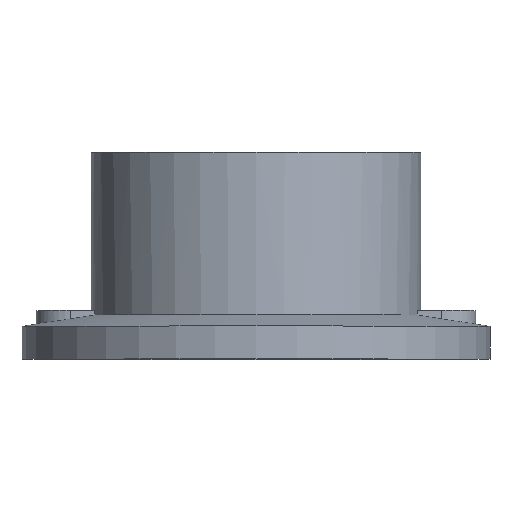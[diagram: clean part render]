
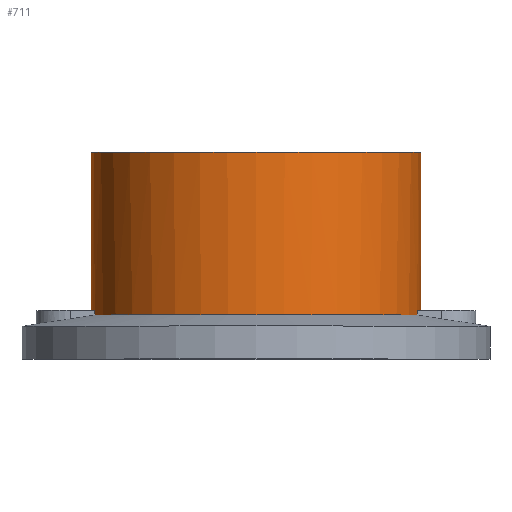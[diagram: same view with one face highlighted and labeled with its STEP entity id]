
A CAD part, top view. The second image highlights one B-rep face of the part: STEP entity #711.
In plain terms, the highlighted cylindrical face has radius 38.1 mm (diameter 76.2 mm), a partial arc.
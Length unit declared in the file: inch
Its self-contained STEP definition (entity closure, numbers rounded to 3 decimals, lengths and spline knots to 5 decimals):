
#438=CARTESIAN_POINT('',(1.46709,0.40234,0.3125));
#439=VERTEX_POINT('',#438);
#453=CARTESIAN_POINT('',(-1.46709,0.40234,0.3125));
#454=VERTEX_POINT('',#453);
#455=CARTESIAN_POINT('',(0.,0.40234,0.0));
#456=DIRECTION('',(0.0,1.0,0.0));
#457=DIRECTION('',(-1.0,0.0,0.0));
#458=AXIS2_PLACEMENT_3D('',#455,#456,#457);
#459=CIRCLE('',#458,1.5);
#460=EDGE_CURVE('',#454,#439,#459,.T.);
#646=CARTESIAN_POINT('',(0.,1.14234,0.0));
#647=DIRECTION('',(0.,1.0,0.0));
#648=DIRECTION('',(-1.0,0.0,0.0));
#649=AXIS2_PLACEMENT_3D('',#646,#647,#648);
#650=CYLINDRICAL_SURFACE('',#649,1.5);
#651=CARTESIAN_POINT('',(-1.5,0.44434,0.));
#652=VERTEX_POINT('',#651);
#653=CARTESIAN_POINT('',(-1.5,1.88234,0.0));
#654=VERTEX_POINT('',#653);
#655=CARTESIAN_POINT('',(-1.5,0.44434,0.));
#656=DIRECTION('',(0.0,1.0,0.0));
#657=VECTOR('',#656,1.438);
#658=LINE('',#655,#657);
#659=EDGE_CURVE('',#652,#654,#658,.T.);
#660=ORIENTED_EDGE('',*,*,#659,.F.);
#661=CARTESIAN_POINT('',(-1.46709,0.44434,0.3125));
#662=VERTEX_POINT('',#661);
#663=CARTESIAN_POINT('',(0.,0.44434,0.0));
#664=DIRECTION('',(0.0,1.0,0.0));
#665=DIRECTION('',(-1.0,0.0,0.0));
#666=AXIS2_PLACEMENT_3D('',#663,#664,#665);
#667=CIRCLE('',#666,1.5);
#668=EDGE_CURVE('',#652,#662,#667,.T.);
#669=ORIENTED_EDGE('',*,*,#668,.T.);
#670=CARTESIAN_POINT('',(-1.46709,0.44434,0.3125));
#671=DIRECTION('',(0.0,-1.0,0.0));
#672=VECTOR('',#671,0.042);
#673=LINE('',#670,#672);
#674=EDGE_CURVE('',#662,#454,#673,.T.);
#675=ORIENTED_EDGE('',*,*,#674,.T.);
#676=ORIENTED_EDGE('',*,*,#460,.T.);
#677=CARTESIAN_POINT('',(1.46709,0.44434,0.3125));
#678=VERTEX_POINT('',#677);
#679=CARTESIAN_POINT('',(1.46709,0.40234,0.3125));
#680=DIRECTION('',(0.0,1.0,0.0));
#681=VECTOR('',#680,0.042);
#682=LINE('',#679,#681);
#683=EDGE_CURVE('',#439,#678,#682,.T.);
#684=ORIENTED_EDGE('',*,*,#683,.T.);
#685=CARTESIAN_POINT('',(1.5,0.44434,0.));
#686=VERTEX_POINT('',#685);
#687=CARTESIAN_POINT('',(0.,0.44434,0.0));
#688=DIRECTION('',(0.0,1.0,0.0));
#689=DIRECTION('',(-1.0,0.0,0.0));
#690=AXIS2_PLACEMENT_3D('',#687,#688,#689);
#691=CIRCLE('',#690,1.5);
#692=EDGE_CURVE('',#678,#686,#691,.T.);
#693=ORIENTED_EDGE('',*,*,#692,.T.);
#694=CARTESIAN_POINT('',(1.5,1.88234,0.));
#695=VERTEX_POINT('',#694);
#696=CARTESIAN_POINT('',(1.5,1.88234,0.));
#697=DIRECTION('',(0.0,-1.0,0.0));
#698=VECTOR('',#697,1.438);
#699=LINE('',#696,#698);
#700=EDGE_CURVE('',#695,#686,#699,.T.);
#701=ORIENTED_EDGE('',*,*,#700,.F.);
#702=CARTESIAN_POINT('',(0.,1.88234,0.0));
#703=DIRECTION('',(0.0,1.0,0.0));
#704=DIRECTION('',(-1.0,0.0,0.0));
#705=AXIS2_PLACEMENT_3D('',#702,#703,#704);
#706=CIRCLE('',#705,1.5);
#707=EDGE_CURVE('',#654,#695,#706,.T.);
#708=ORIENTED_EDGE('',*,*,#707,.F.);
#709=EDGE_LOOP('',(#660,#669,#675,#676,#684,#693,#701,#708));
#710=FACE_OUTER_BOUND('',#709,.T.);
#711=ADVANCED_FACE('',(#710),#650,.T.);
